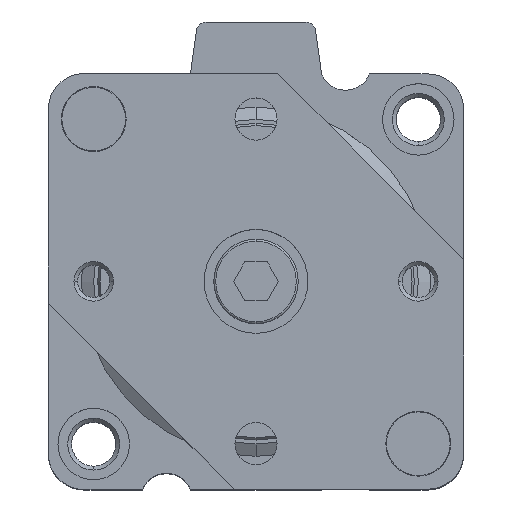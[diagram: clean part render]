
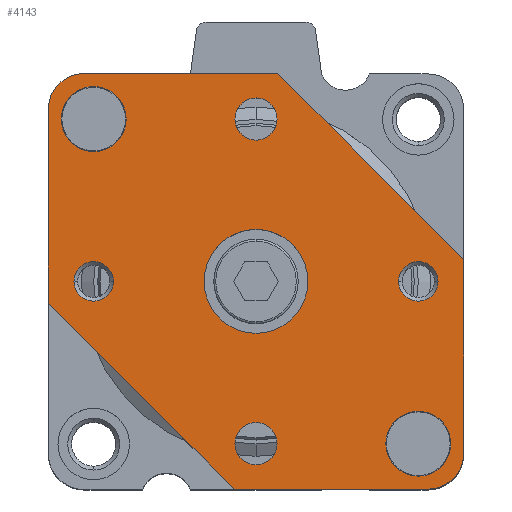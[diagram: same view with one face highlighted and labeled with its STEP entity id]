
A CAD part, top view. The second image highlights one B-rep face of the part: STEP entity #4143.
In plain terms, the highlighted planar face has unit normal (0, 0, 1).
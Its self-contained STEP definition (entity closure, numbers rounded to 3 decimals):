
#3083=CARTESIAN_POINT('',(0.,25.,0.));
#3084=DIRECTION('',(0.,0.,1.));
#3085=DIRECTION('',(-1.,0.,0.));
#3086=AXIS2_PLACEMENT_3D('',#3083,#3084,#3085);
#3088=CARTESIAN_POINT('',(0.,25.,0.));
#3089=DIRECTION('',(0.,0.,1.));
#3090=DIRECTION('',(1.,0.,0.));
#3091=AXIS2_PLACEMENT_3D('',#3088,#3089,#3090);
#3093=CARTESIAN_POINT('',(0.,-25.,0.));
#3094=DIRECTION('',(0.,0.,1.));
#3095=DIRECTION('',(-1.,0.,0.));
#3096=AXIS2_PLACEMENT_3D('',#3093,#3094,#3095);
#3098=CARTESIAN_POINT('',(0.,-25.,0.));
#3099=DIRECTION('',(0.,0.,1.));
#3100=DIRECTION('',(1.,0.,0.));
#3101=AXIS2_PLACEMENT_3D('',#3098,#3099,#3100);
#3103=DIRECTION('',(0.707,-0.707,0.));
#3104=VECTOR('',#3103,40.51);
#3105=CARTESIAN_POINT('',(3.355,32.,0.));
#3106=LINE('',#3105,#3104);
#3107=DIRECTION('',(0.,-1.,0.));
#3108=VECTOR('',#3107,29.855);
#3109=CARTESIAN_POINT('',(32.,3.355,0.));
#3110=LINE('',#3109,#3108);
#3111=CARTESIAN_POINT('',(26.5,-26.5,0.));
#3112=DIRECTION('',(0.,0.,-1.));
#3113=DIRECTION('',(1.,0.,0.));
#3114=AXIS2_PLACEMENT_3D('',#3111,#3112,#3113);
#3116=DIRECTION('',(-1.,0.,0.));
#3117=VECTOR('',#3116,29.855);
#3118=CARTESIAN_POINT('',(26.5,-32.,0.));
#3119=LINE('',#3118,#3117);
#3120=DIRECTION('',(-0.707,0.707,0.));
#3121=VECTOR('',#3120,40.51);
#3122=CARTESIAN_POINT('',(-3.355,-32.,0.));
#3123=LINE('',#3122,#3121);
#3124=DIRECTION('',(0.,1.,0.));
#3125=VECTOR('',#3124,29.855);
#3126=CARTESIAN_POINT('',(-32.,-3.355,0.));
#3127=LINE('',#3126,#3125);
#3128=CARTESIAN_POINT('',(-26.5,26.5,0.));
#3129=DIRECTION('',(0.,0.,-1.));
#3130=DIRECTION('',(-1.,0.,0.));
#3131=AXIS2_PLACEMENT_3D('',#3128,#3129,#3130);
#3133=DIRECTION('',(1.,0.,0.));
#3134=VECTOR('',#3133,29.855);
#3135=CARTESIAN_POINT('',(-26.5,32.,0.));
#3136=LINE('',#3135,#3134);
#3137=CARTESIAN_POINT('',(0.,0.,0.));
#3138=DIRECTION('',(0.,0.,1.));
#3139=DIRECTION('',(0.,1.,0.));
#3140=AXIS2_PLACEMENT_3D('',#3137,#3138,#3139);
#3142=CARTESIAN_POINT('',(0.,0.,0.));
#3143=DIRECTION('',(0.,0.,1.));
#3144=DIRECTION('',(0.,-1.,0.));
#3145=AXIS2_PLACEMENT_3D('',#3142,#3143,#3144);
#3157=CARTESIAN_POINT('',(-25.,25.,0.));
#3158=DIRECTION('',(0.,0.,1.));
#3159=DIRECTION('',(1.,0.,0.));
#3160=AXIS2_PLACEMENT_3D('',#3157,#3158,#3159);
#3162=CARTESIAN_POINT('',(-25.,25.,0.));
#3163=DIRECTION('',(0.,0.,1.));
#3164=DIRECTION('',(-1.,0.,0.));
#3165=AXIS2_PLACEMENT_3D('',#3162,#3163,#3164);
#3177=CARTESIAN_POINT('',(25.,-25.,0.));
#3178=DIRECTION('',(0.,0.,1.));
#3179=DIRECTION('',(1.,0.,0.));
#3180=AXIS2_PLACEMENT_3D('',#3177,#3178,#3179);
#3182=CARTESIAN_POINT('',(25.,-25.,0.));
#3183=DIRECTION('',(0.,0.,1.));
#3184=DIRECTION('',(-1.,0.,0.));
#3185=AXIS2_PLACEMENT_3D('',#3182,#3183,#3184);
#3350=CARTESIAN_POINT('',(25.,0.,0.));
#3351=DIRECTION('',(0.,0.,1.));
#3352=DIRECTION('',(1.,0.,0.));
#3353=AXIS2_PLACEMENT_3D('',#3350,#3351,#3352);
#3360=CARTESIAN_POINT('',(25.,0.,0.));
#3361=DIRECTION('',(0.,0.,1.));
#3362=DIRECTION('',(-1.,0.,0.));
#3363=AXIS2_PLACEMENT_3D('',#3360,#3361,#3362);
#3414=CARTESIAN_POINT('',(-25.,0.,0.));
#3415=DIRECTION('',(0.,0.,1.));
#3416=DIRECTION('',(1.,0.,0.));
#3417=AXIS2_PLACEMENT_3D('',#3414,#3415,#3416);
#3424=CARTESIAN_POINT('',(-25.,0.,0.));
#3425=DIRECTION('',(0.,0.,1.));
#3426=DIRECTION('',(-1.,0.,0.));
#3427=AXIS2_PLACEMENT_3D('',#3424,#3425,#3426);
#3861=CARTESIAN_POINT('',(-3.25,25.,0.));
#3862=CARTESIAN_POINT('',(3.25,25.,0.));
#3863=VERTEX_POINT('',#3861);
#3864=VERTEX_POINT('',#3862);
#3865=CARTESIAN_POINT('',(-3.25,-25.,0.));
#3866=CARTESIAN_POINT('',(3.25,-25.,0.));
#3867=VERTEX_POINT('',#3865);
#3868=VERTEX_POINT('',#3866);
#3869=CARTESIAN_POINT('',(-32.,26.5,0.));
#3870=CARTESIAN_POINT('',(-26.5,32.,0.));
#3871=VERTEX_POINT('',#3869);
#3872=VERTEX_POINT('',#3870);
#3873=CARTESIAN_POINT('',(32.,-26.5,0.));
#3874=CARTESIAN_POINT('',(26.5,-32.,0.));
#3875=VERTEX_POINT('',#3873);
#3876=VERTEX_POINT('',#3874);
#3885=CARTESIAN_POINT('',(3.355,32.,0.));
#3886=CARTESIAN_POINT('',(32.,3.355,0.));
#3887=VERTEX_POINT('',#3885);
#3888=VERTEX_POINT('',#3886);
#3889=CARTESIAN_POINT('',(-3.355,-32.,0.));
#3890=CARTESIAN_POINT('',(-32.,-3.355,0.));
#3891=VERTEX_POINT('',#3889);
#3892=VERTEX_POINT('',#3890);
#3901=CARTESIAN_POINT('',(-21.959,0.,0.));
#3902=CARTESIAN_POINT('',(-28.041,0.,0.));
#3903=VERTEX_POINT('',#3901);
#3904=VERTEX_POINT('',#3902);
#3909=CARTESIAN_POINT('',(28.041,0.,0.));
#3910=CARTESIAN_POINT('',(21.959,0.,0.));
#3911=VERTEX_POINT('',#3909);
#3912=VERTEX_POINT('',#3910);
#3949=CARTESIAN_POINT('',(0.,8.,0.));
#3950=CARTESIAN_POINT('',(0.,-8.,0.));
#3951=VERTEX_POINT('',#3949);
#3952=VERTEX_POINT('',#3950);
#4053=CARTESIAN_POINT('',(-20.,25.,0.));
#4054=CARTESIAN_POINT('',(-30.,25.,0.));
#4055=VERTEX_POINT('',#4053);
#4056=VERTEX_POINT('',#4054);
#4061=CARTESIAN_POINT('',(30.,-25.,0.));
#4062=CARTESIAN_POINT('',(20.,-25.,0.));
#4063=VERTEX_POINT('',#4061);
#4064=VERTEX_POINT('',#4062);
#4078=CARTESIAN_POINT('',(0.,0.,0.));
#4079=DIRECTION('',(0.,0.,1.));
#4080=DIRECTION('',(1.,0.,0.));
#4081=AXIS2_PLACEMENT_3D('',#4078,#4079,#4080);
#4082=PLANE('',#4081);
#4084=ORIENTED_EDGE('',*,*,#4083,.T.);
#4086=ORIENTED_EDGE('',*,*,#4085,.T.);
#4088=ORIENTED_EDGE('',*,*,#4087,.T.);
#4090=ORIENTED_EDGE('',*,*,#4089,.T.);
#4092=ORIENTED_EDGE('',*,*,#4091,.T.);
#4094=ORIENTED_EDGE('',*,*,#4093,.T.);
#4096=ORIENTED_EDGE('',*,*,#4095,.T.);
#4098=ORIENTED_EDGE('',*,*,#4097,.T.);
#4099=EDGE_LOOP('',(#4084,#4086,#4088,#4090,#4092,#4094,#4096,#4098));
#4100=FACE_OUTER_BOUND('',#4099,.F.);
#4102=ORIENTED_EDGE('',*,*,#4101,.T.);
#4104=ORIENTED_EDGE('',*,*,#4103,.T.);
#4105=EDGE_LOOP('',(#4102,#4104));
#4106=FACE_BOUND('',#4105,.F.);
#4108=ORIENTED_EDGE('',*,*,#4107,.T.);
#4110=ORIENTED_EDGE('',*,*,#4109,.T.);
#4111=EDGE_LOOP('',(#4108,#4110));
#4112=FACE_BOUND('',#4111,.F.);
#4114=ORIENTED_EDGE('',*,*,#4113,.T.);
#4116=ORIENTED_EDGE('',*,*,#4115,.T.);
#4117=EDGE_LOOP('',(#4114,#4116));
#4118=FACE_BOUND('',#4117,.F.);
#4120=ORIENTED_EDGE('',*,*,#4119,.T.);
#4122=ORIENTED_EDGE('',*,*,#4121,.T.);
#4123=EDGE_LOOP('',(#4120,#4122));
#4124=FACE_BOUND('',#4123,.F.);
#4126=ORIENTED_EDGE('',*,*,#4125,.T.);
#4128=ORIENTED_EDGE('',*,*,#4127,.T.);
#4129=EDGE_LOOP('',(#4126,#4128));
#4130=FACE_BOUND('',#4129,.F.);
#4132=ORIENTED_EDGE('',*,*,#4131,.T.);
#4134=ORIENTED_EDGE('',*,*,#4133,.T.);
#4135=EDGE_LOOP('',(#4132,#4134));
#4136=FACE_BOUND('',#4135,.F.);
#4138=ORIENTED_EDGE('',*,*,#4137,.T.);
#4140=ORIENTED_EDGE('',*,*,#4139,.T.);
#4141=EDGE_LOOP('',(#4138,#4140));
#4142=FACE_BOUND('',#4141,.F.);
#4143=ADVANCED_FACE('',(#4100,#4106,#4112,#4118,#4124,#4130,#4136,#4142),#4082,
.T.);
#3087=CIRCLE('',#3086,3.25);
#3092=CIRCLE('',#3091,3.25);
#3097=CIRCLE('',#3096,3.25);
#3102=CIRCLE('',#3101,3.25);
#3115=CIRCLE('',#3114,5.5);
#3132=CIRCLE('',#3131,5.5);
#3141=CIRCLE('',#3140,8.);
#3146=CIRCLE('',#3145,8.);
#3161=CIRCLE('',#3160,5.);
#3166=CIRCLE('',#3165,5.);
#3181=CIRCLE('',#3180,5.);
#3186=CIRCLE('',#3185,5.);
#3354=CIRCLE('',#3353,3.041);
#3364=CIRCLE('',#3363,3.041);
#3418=CIRCLE('',#3417,3.041);
#3428=CIRCLE('',#3427,3.041);
#4083=EDGE_CURVE('',#3887,#3888,#3106,.T.);
#4085=EDGE_CURVE('',#3888,#3875,#3110,.T.);
#4087=EDGE_CURVE('',#3875,#3876,#3115,.T.);
#4089=EDGE_CURVE('',#3876,#3891,#3119,.T.);
#4091=EDGE_CURVE('',#3891,#3892,#3123,.T.);
#4093=EDGE_CURVE('',#3892,#3871,#3127,.T.);
#4095=EDGE_CURVE('',#3871,#3872,#3132,.T.);
#4097=EDGE_CURVE('',#3872,#3887,#3136,.T.);
#4101=EDGE_CURVE('',#3863,#3864,#3087,.T.);
#4103=EDGE_CURVE('',#3864,#3863,#3092,.T.);
#4107=EDGE_CURVE('',#3867,#3868,#3097,.T.);
#4109=EDGE_CURVE('',#3868,#3867,#3102,.T.);
#4113=EDGE_CURVE('',#3912,#3911,#3364,.T.);
#4115=EDGE_CURVE('',#3911,#3912,#3354,.T.);
#4119=EDGE_CURVE('',#3904,#3903,#3428,.T.);
#4121=EDGE_CURVE('',#3903,#3904,#3418,.T.);
#4125=EDGE_CURVE('',#3951,#3952,#3141,.T.);
#4127=EDGE_CURVE('',#3952,#3951,#3146,.T.);
#4131=EDGE_CURVE('',#4055,#4056,#3161,.T.);
#4133=EDGE_CURVE('',#4056,#4055,#3166,.T.);
#4137=EDGE_CURVE('',#4063,#4064,#3181,.T.);
#4139=EDGE_CURVE('',#4064,#4063,#3186,.T.);
